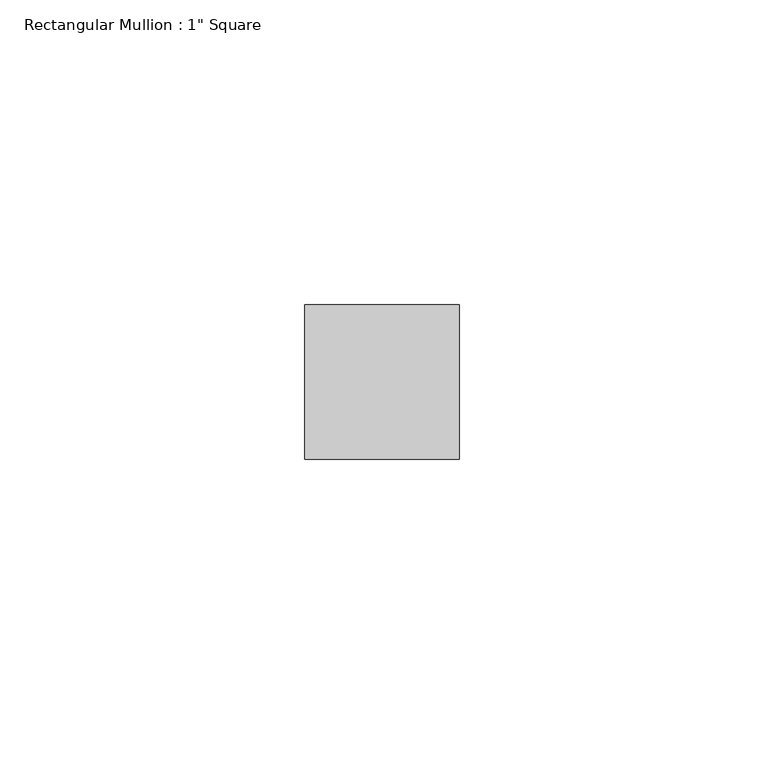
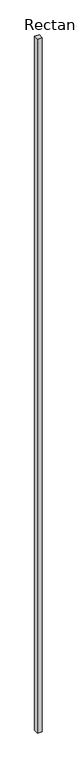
"""IFC4 building model written with IfcOpenShell, lengths in millimetres: member geometry."""

from ifc_helpers import new_model, si_unit, frame, origin, place, context, project, spatial, polyline, outline, extrude, source, transform, mapped, element, save


def member_2a641000(model_context):
    return source(origin(), model_context, "Body", "SweptSolid", [
        extrude(outline(polyline([(12.7, 12.7), (12.7, -12.7), (-12.7, -12.7), (-12.7, 12.7), (12.7, 12.7)])), frame((0.0, 0.0, -4000.0), z_axis=(0.0, 0.0, 1.0), x_axis=(1.0, 0.0, 0.0)), (0.0, 0.0, 1.0), 4000.0),
    ])


if __name__ == "__main__":
    model = new_model("IFC4")
    model_context = context("Model", 3, world=origin())
    ifc_project = project(units=[si_unit("LENGTHUNIT", "METRE", prefix="MILLI")], contexts=[model_context])
    site = spatial("IfcSite", under=ifc_project)
    building = spatial("IfcBuilding", under=site)
    placement = place(None, origin())
    member_shape = member_2a641000(model_context)
    element("IfcMember", 1, ObjectType="Rectangular Mullion : 1\" Square", at=placement, inside=building, context=model_context, shape_type="MappedRepresentation", body=[
        mapped(member_shape, transform((0.0, 0.0, 0.0), x_axis=(1.0, 0.0, 0.0), y_axis=(0.0, 1.0, 0.0), z_axis=(0.0, 0.0, 1.0))),
    ])
    save(model, "model.ifc")
